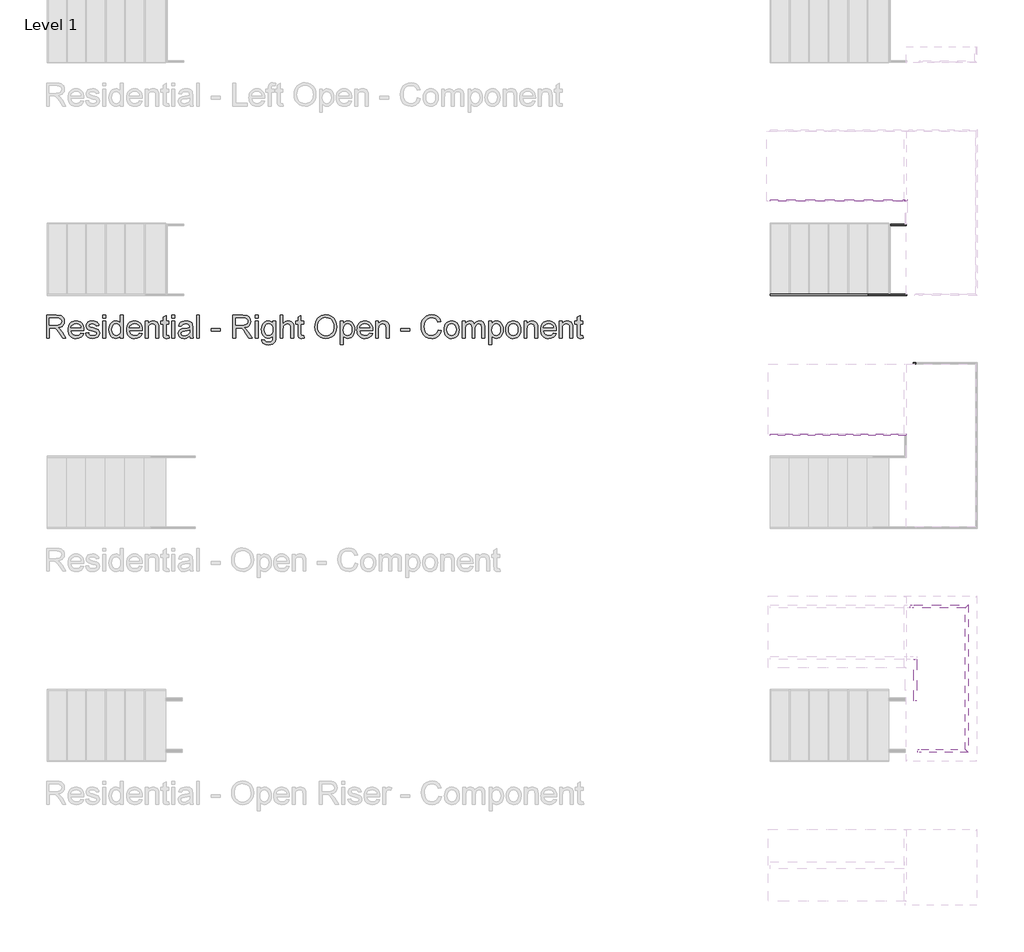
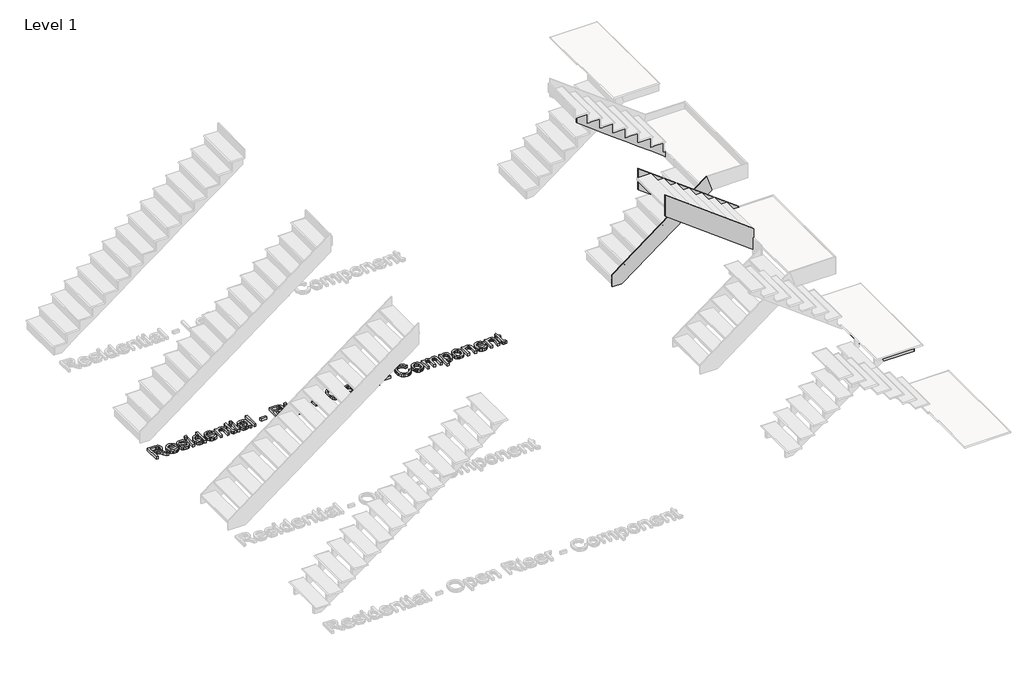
# One storey, part 7 of 15: 9 members, 1 proxy.
"""IFC4 building model written with IfcOpenShell, lengths in millimetres."""

from ifc_helpers import new_model, si_unit, frame, origin, origin_with_axes, place, context, project, spatial, polyline, outline, extrude, faceted_brep, element, save

model = new_model("IFC4")

# Units and contexts
model_context = context("Model", 3, world=origin())
ifc_project = project(units=[si_unit("LENGTHUNIT", "METRE", prefix="MILLI")], contexts=[model_context])

# Site, building, storey
site = spatial("IfcSite", under=ifc_project)
building = spatial("IfcBuilding", under=site)
storey = spatial("IfcBuildingStorey", under=building, Name="Level 1", Elevation=0.0)

# Proxy
placement = place(None, origin())
element("IfcBuildingElementProxy", 1, Name="12\" Arial", ObjectType="12\" Arial", at=placement, inside=storey, context=model_context, shape_type="SweptSolid", body=[
    extrude(outline(polyline([(-27238.310174, -2715.1232123), (-27238.310174, -2415.012443), (-27108.9899817, -2415.012443), (-27074.2328904, -2417.0365055), (-27048.9458471, -2423.108693), (-27030.4636837, -2434.3188854), (-27016.1212317, -2451.7569623), (-27006.9167846, -2473.380544), (-27003.8486356, -2497.1472507), (-27008.9316885, -2526.7113854), (-27024.1808471, -2551.219943), (-27035.7321993, -2561.2074551), (-27050.0540442, -2569.1892219), (-27087.0092125, -2579.13552), (-27065.6878664, -2595.1814815), (-27035.2811356, -2633.7943661), (-26985.238251, -2715.1232123), (-27028.8334433, -2715.1232123), (-27067.8859433, -2652.9176354), (-27096.0945971, -2611.7403277), (-27115.913924, -2592.2873469), (-27133.7549817, -2585.1435969), (-27155.5159433, -2583.8247507), (-27200.7963279, -2583.8247507), (-27200.7963279, -2715.1232123), (-27238.310174, -2715.1232123)]), holes=[polyline([(-27200.7963279, -2546.3109046), (-27116.8297894, -2546.3109046), (-27092.7150539, -2544.9828998), (-27074.003924, -2540.9988854), (-27059.9179144, -2534.0932604), (-27049.6785394, -2524.0004238), (-27043.4414962, -2511.7919382), (-27041.3624817, -2498.5393661), (-27045.3281789, -2480.2403757), (-27057.2252702, -2465.494943), (-27077.6948615, -2455.7684527), (-27107.3780587, -2452.5262892), (-27200.7963279, -2452.5262892), (-27200.7963279, -2546.3109046)])]), origin_with_axes(), (0.0, 0.0, 1.0), 50.8),
    extrude(outline(polyline([(-26788.5836356, -2649.4739815), (-26751.8024817, -2654.1632123), (-26765.0550539, -2681.8772988), (-26786.2023856, -2702.5941738), (-26814.7682269, -2715.5078757), (-26850.2763279, -2719.812443), (-26873.5530466, -2717.955526), (-26894.2928183, -2712.3847748), (-26912.4956428, -2703.1001894), (-26928.1615202, -2690.10177), (-26940.7592486, -2673.7512832), (-26949.757626, -2654.4104959), (-26955.1566524, -2632.0794082), (-26956.9563279, -2606.75802), (-26955.1383351, -2580.5780079), (-26949.6843567, -2557.5027796), (-26940.5943928, -2537.5323349), (-26927.8684433, -2520.6666738), (-26912.2437798, -2507.2675632), (-26894.457674, -2497.69677), (-26874.510126, -2491.954294), (-26852.4011356, -2490.0401354), (-26831.0042305, -2491.9497147), (-26811.6542846, -2497.6784527), (-26794.3512978, -2507.2263493), (-26779.0952702, -2520.5934046), (-26766.6417906, -2537.422431), (-26757.7464481, -2557.3562411), (-26752.4092426, -2580.3948349), (-26750.630174, -2606.5382123), (-26750.8499817, -2616.6493661), (-26919.4424817, -2616.6493661), (-26912.9489962, -2644.7297988), (-26897.8646933, -2665.3734046), (-26876.0945731, -2678.0672988), (-26849.5436356, -2682.2985969), (-26829.5777702, -2680.338645), (-26812.7624817, -2674.4587892), (-26799.0977702, -2664.2926834), (-26788.5836356, -2649.4739815)]), holes=[polyline([(-26919.4424817, -2579.13552), (-26788.1440202, -2579.13552), (-26793.2179144, -2559.316193), (-26803.1642125, -2545.1385969), (-26825.0350779, -2531.9501354), (-26852.547674, -2527.5539815), (-26877.8347173, -2531.0617459), (-26898.743924, -2541.5850392), (-26913.2787077, -2557.9881882), (-26919.4424817, -2579.13552)])]), origin_with_axes(), (0.0, 0.0, 1.0), 50.8),
    extrude(outline(polyline([(-26727.1840202, -2649.4739815), (-26689.670174, -2644.7847507), (-26683.7536837, -2660.8307123), (-26672.3053664, -2672.6270584), (-26655.2519529, -2679.8807123), (-26632.520174, -2682.2985969), (-26610.0631548, -2680.0822027), (-26594.2736356, -2673.43302), (-26584.9318087, -2663.7981161), (-26581.8178664, -2652.6245584), (-26584.950126, -2643.0629238), (-26594.3469048, -2635.7726354), (-26632.9597894, -2625.0753277), (-26689.4503664, -2606.7213854), (-26703.747025, -2597.4986209), (-26714.1054625, -2585.2901354), (-26720.3974577, -2570.8744142), (-26722.4947894, -2555.029943), (-26720.8095971, -2540.4951594), (-26715.7540202, -2527.0777315), (-26707.7859914, -2515.3088613), (-26697.3634433, -2505.7197507), (-26673.5143087, -2494.6194623), (-26641.2392125, -2490.0401354), (-26616.8222414, -2491.8810248), (-26595.5924817, -2497.403693), (-26578.520751, -2506.0677796), (-26566.5778664, -2517.3329238), (-26558.6647894, -2532.0325632), (-26553.6824817, -2551.0001354), (-26591.1963279, -2555.6893661), (-26595.9313519, -2543.8838613), (-26605.3006548, -2534.9908084), (-26619.3958231, -2529.4131882), (-26638.3084433, -2527.5539815), (-26659.8495971, -2529.3307604), (-26674.2103664, -2534.6610969), (-26682.288299, -2542.3543661), (-26684.9809433, -2551.219943), (-26680.5115202, -2562.1370584), (-26666.5170971, -2570.4164815), (-26634.2053664, -2578.4028277), (-26579.1435394, -2596.0607123), (-26564.5995971, -2604.5049911), (-26553.5725779, -2616.0632123), (-26546.6211596, -2630.7720104), (-26544.3040202, -2648.66802), (-26547.0241404, -2667.1685007), (-26555.184501, -2684.569943), (-26568.4737077, -2699.5077075), (-26586.5803664, -2710.6171546), (-26608.4512317, -2717.5136209), (-26633.0330587, -2719.812443), (-26670.858299, -2715.3796546), (-26698.4624817, -2702.0812892), (-26716.8896933, -2680.0638854), (-26727.1840202, -2649.4739815)])), origin_with_axes(), (0.0, 0.0, 1.0), 50.8),
    extrude(outline(polyline([(-26502.1009433, -2715.1232123), (-26502.1009433, -2494.7293661), (-26464.5870971, -2494.7293661), (-26464.5870971, -2715.1232123), (-26502.1009433, -2715.1232123)])), origin_with_axes(), (0.0, 0.0, 1.0), 50.8),
    extrude(outline(polyline([(-26502.1009433, -2452.5262892), (-26502.1009433, -2415.012443), (-26464.5870971, -2415.012443), (-26464.5870971, -2452.5262892), (-26502.1009433, -2452.5262892)])), origin_with_axes(), (0.0, 0.0, 1.0), 50.8),
    extrude(outline(polyline([(-26272.3286356, -2715.1232123), (-26272.3286356, -2679.7341738), (-26283.5525659, -2697.2684166), (-26297.1485875, -2709.7928757), (-26313.1167005, -2717.3075512), (-26331.4569048, -2719.812443), (-26355.7090202, -2716.1856161), (-26377.9095971, -2705.3051354), (-26396.7031548, -2687.931169), (-26410.7342125, -2664.8238854), (-26419.4715683, -2636.9174671), (-26422.3840202, -2605.1460969), (-26419.7005346, -2573.7685488), (-26411.6500779, -2545.4316738), (-26398.2418087, -2521.747395), (-26379.4848856, -2504.3276354), (-26356.7989, -2493.6120104), (-26331.6034433, -2490.0401354), (-26313.249501, -2492.5953998), (-26297.0203664, -2500.261193), (-26283.2640683, -2512.0117459), (-26272.3286356, -2526.8212892), (-26272.3286356, -2415.012443), (-26234.8147894, -2415.012443), (-26234.8147894, -2715.1232123), (-26272.3286356, -2715.1232123)]), holes=[polyline([(-26384.870174, -2604.9995584), (-26380.638876, -2638.9323709), (-26367.9449817, -2663.0654238), (-26349.4994529, -2677.4903036), (-26328.013251, -2682.2985969), (-26306.5362077, -2677.7101113), (-26288.5577702, -2663.9446546), (-26276.3859192, -2640.7457844), (-26272.3286356, -2607.8570584), (-26276.4591885, -2571.9001834), (-26288.8508471, -2546.9703277), (-26307.2872173, -2532.408068), (-26329.5519048, -2527.5539815), (-26351.2579144, -2532.2157363), (-26369.0440202, -2546.2010007), (-26380.9136356, -2570.2241498), (-26384.870174, -2604.9995584)])]), origin_with_axes(), (0.0, 0.0, 1.0), 50.8),
    extrude(outline(polyline([(-26024.2390202, -2649.4739815), (-25987.4578664, -2654.1632123), (-26000.7104385, -2681.8772988), (-26021.8577702, -2702.5941738), (-26050.4236115, -2715.5078757), (-26085.9317125, -2719.812443), (-26109.2084313, -2717.955526), (-26129.9482029, -2712.3847748), (-26148.1510274, -2703.1001894), (-26163.8169048, -2690.10177), (-26176.4146332, -2673.7512832), (-26185.4130106, -2654.4104959), (-26190.812037, -2632.0794082), (-26192.6117125, -2606.75802), (-26190.7937197, -2580.5780079), (-26185.3397414, -2557.5027796), (-26176.2497774, -2537.5323349), (-26163.5238279, -2520.6666738), (-26147.8991644, -2507.2675632), (-26130.1130587, -2497.69677), (-26110.1655106, -2491.954294), (-26088.0565202, -2490.0401354), (-26066.6596152, -2491.9497147), (-26047.3096692, -2497.6784527), (-26030.0066825, -2507.2263493), (-26014.7506548, -2520.5934046), (-26002.2971753, -2537.422431), (-25993.4018327, -2557.3562411), (-25988.0646272, -2580.3948349), (-25986.2855587, -2606.5382123), (-25986.5053664, -2616.6493661), (-26155.0978664, -2616.6493661), (-26148.6043808, -2644.7297988), (-26133.5200779, -2665.3734046), (-26111.7499577, -2678.0672988), (-26085.1990202, -2682.2985969), (-26065.2331548, -2680.338645), (-26048.4178664, -2674.4587892), (-26034.7531548, -2664.2926834), (-26024.2390202, -2649.4739815)]), holes=[polyline([(-26155.0978664, -2579.13552), (-26023.7994048, -2579.13552), (-26028.873299, -2559.316193), (-26038.8195971, -2545.1385969), (-26060.6904625, -2531.9501354), (-26088.2030587, -2527.5539815), (-26113.4901019, -2531.0617459), (-26134.3993087, -2541.5850392), (-26148.9340923, -2557.9881882), (-26155.0978664, -2579.13552)])]), origin_with_axes(), (0.0, 0.0, 1.0), 50.8),
    extrude(outline(polyline([(-25948.7717125, -2715.1232123), (-25948.7717125, -2494.7293661), (-25911.2578664, -2494.7293661), (-25911.2578664, -2525.502443), (-25898.2251019, -2509.9876834), (-25882.5729625, -2498.9057123), (-25864.3014481, -2492.2565296), (-25843.4105587, -2490.0401354), (-25824.9192365, -2491.8260729), (-25807.9848856, -2497.1838854), (-25793.8622414, -2505.4449911), (-25783.8060394, -2515.9408084), (-25772.5592125, -2543.5266738), (-25770.5809433, -2579.794943), (-25770.5809433, -2715.1232123), (-25808.0947894, -2715.1232123), (-25808.0947894, -2584.85052), (-25812.417674, -2551.6595584), (-25818.398275, -2541.7773709), (-25827.6943087, -2534.1115777), (-25839.6097173, -2529.1933805), (-25853.4484433, -2527.5539815), (-25875.4200539, -2531.2357604), (-25894.149501, -2542.2810969), (-25901.6344108, -2551.2977916), (-25906.980775, -2563.6207604), (-25911.2578664, -2598.18552), (-25911.2578664, -2715.1232123), (-25948.7717125, -2715.1232123)])), origin_with_axes(), (0.0, 0.0, 1.0), 50.8),
    extrude(outline(polyline([(-25639.2824817, -2683.8372507), (-25634.593251, -2716.2222507), (-25662.6553664, -2719.812443), (-25680.6612798, -2718.2554719), (-25694.0878664, -2713.5845584), (-25703.5762317, -2706.3858565), (-25709.7674817, -2697.24552), (-25713.174501, -2681.5475873), (-25714.310174, -2654.6760969), (-25714.310174, -2532.2432123), (-25742.4455587, -2532.2432123), (-25742.4455587, -2494.7293661), (-25714.310174, -2494.7293661), (-25714.310174, -2441.1695584), (-25676.7963279, -2419.11552), (-25676.7963279, -2494.7293661), (-25639.2824817, -2494.7293661), (-25639.2824817, -2532.2432123), (-25676.7963279, -2532.2432123), (-25676.7963279, -2653.5770584), (-25674.8180587, -2672.9201354), (-25668.407001, -2679.7708084), (-25655.6215202, -2682.2985969), (-25639.2824817, -2683.8372507)])), origin_with_axes(), (0.0, 0.0, 1.0), 50.8),
    extrude(outline(polyline([(-25601.7686356, -2715.1232123), (-25601.7686356, -2494.7293661), (-25564.2547894, -2494.7293661), (-25564.2547894, -2715.1232123), (-25601.7686356, -2715.1232123)])), origin_with_axes(), (0.0, 0.0, 1.0), 50.8),
    extrude(outline(polyline([(-25601.7686356, -2452.5262892), (-25601.7686356, -2415.012443), (-25564.2547894, -2415.012443), (-25564.2547894, -2452.5262892), (-25601.7686356, -2452.5262892)])), origin_with_axes(), (0.0, 0.0, 1.0), 50.8),
    extrude(outline(polyline([(-25367.3070971, -2686.9878277), (-25385.2305827, -2702.3560488), (-25403.6852702, -2712.4122507), (-25423.0924577, -2717.962395), (-25443.8734433, -2719.812443), (-25475.2235154, -2715.3613373), (-25498.3491164, -2702.00802), (-25512.6091404, -2681.7307604), (-25517.3624817, -2656.5078277), (-25515.5673856, -2640.9564334), (-25510.1820971, -2626.8337892), (-25501.8751981, -2614.7443661), (-25491.3152702, -2605.2926354), (-25465.048251, -2592.9834046), (-25432.5899817, -2587.3416738), (-25394.2335394, -2581.4068661), (-25367.5269048, -2574.4462892), (-25367.3070971, -2566.0935969), (-25369.8898375, -2549.3515777), (-25377.6380587, -2538.3978277), (-25394.9662317, -2530.264943), (-25419.1084433, -2527.5539815), (-25441.4555587, -2529.3582363), (-25457.0619048, -2534.7710007), (-25467.7042606, -2544.7814094), (-25475.1594048, -2560.3785969), (-25512.673251, -2555.6893661), (-25506.1614481, -2535.1739815), (-25496.4441164, -2519.0547507), (-25482.614549, -2506.7272027), (-25463.7660394, -2497.5868661), (-25440.7137077, -2491.926818), (-25414.272674, -2490.0401354), (-25388.9123615, -2491.7070104), (-25368.8091164, -2496.7076354), (-25353.6515442, -2504.2268902), (-25343.128251, -2513.4496546), (-25336.1493567, -2524.8521786), (-25331.6249817, -2538.9107123), (-25329.793251, -2571.7353277), (-25329.793251, -2618.4078277), (-25327.888251, -2683.5808084), (-25320.4147894, -2715.1232123), (-25357.9286356, -2715.1232123), (-25367.3070971, -2686.9878277)]), holes=[polyline([(-25367.3070971, -2611.9601354), (-25427.8274817, -2623.4634046), (-25460.1025779, -2629.5447507), (-25474.7197894, -2639.4360969), (-25479.8486356, -2653.8701354), (-25477.0552462, -2665.0253757), (-25468.6750779, -2674.1657123), (-25454.8913039, -2680.2653757), (-25435.8870971, -2682.2985969), (-25415.7380587, -2680.0547267), (-25397.9336356, -2673.3231161), (-25383.4995971, -2663.404294), (-25373.4617125, -2651.5987892), (-25369.0106067, -2639.4360969), (-25367.5269048, -2622.5841738), (-25367.3070971, -2611.9601354)])]), origin_with_axes(), (0.0, 0.0, 1.0), 50.8),
    extrude(outline(polyline([(-25278.2117125, -2715.1232123), (-25278.2117125, -2415.012443), (-25240.6978664, -2415.012443), (-25240.6978664, -2715.1232123), (-25278.2117125, -2715.1232123)])), origin_with_axes(), (0.0, 0.0, 1.0), 50.8),
    extrude(outline(polyline([(-25085.953251, -2626.0278277), (-25085.953251, -2588.5139815), (-24968.7224817, -2588.5139815), (-24968.7224817, -2626.0278277), (-25085.953251, -2626.0278277)])), origin_with_axes(), (0.0, 0.0, 1.0), 50.8),
    extrude(outline(polyline([(-24804.5994048, -2715.1232123), (-24804.5994048, -2415.012443), (-24675.2792125, -2415.012443), (-24640.5221212, -2417.0365055), (-24615.2350779, -2423.108693), (-24596.7529144, -2434.3188854), (-24582.4104625, -2451.7569623), (-24573.2060154, -2473.380544), (-24570.1378664, -2497.1472507), (-24575.2209192, -2526.7113854), (-24590.4700779, -2551.219943), (-24602.0214301, -2561.2074551), (-24616.343275, -2569.1892219), (-24653.2984433, -2579.13552), (-24631.9770971, -2595.1814815), (-24601.5703664, -2633.7943661), (-24551.5274817, -2715.1232123), (-24595.122674, -2715.1232123), (-24634.175174, -2652.9176354), (-24662.3838279, -2611.7403277), (-24682.2031548, -2592.2873469), (-24700.0442125, -2585.1435969), (-24721.805174, -2583.8247507), (-24767.0855587, -2583.8247507), (-24767.0855587, -2715.1232123), (-24804.5994048, -2715.1232123)]), holes=[polyline([(-24767.0855587, -2546.3109046), (-24683.1190202, -2546.3109046), (-24659.0042846, -2544.9828998), (-24640.2931548, -2540.9988854), (-24626.2071452, -2534.0932604), (-24615.9677702, -2524.0004238), (-24609.7307269, -2511.7919382), (-24607.6517125, -2498.5393661), (-24611.6174096, -2480.2403757), (-24623.514501, -2465.494943), (-24643.9840923, -2455.7684527), (-24673.6672894, -2452.5262892), (-24767.0855587, -2452.5262892), (-24767.0855587, -2546.3109046)])]), origin_with_axes(), (0.0, 0.0, 1.0), 50.8),
    extrude(outline(polyline([(-24509.1778664, -2715.1232123), (-24509.1778664, -2494.7293661), (-24471.6640202, -2494.7293661), (-24471.6640202, -2715.1232123), (-24509.1778664, -2715.1232123)])), origin_with_axes(), (0.0, 0.0, 1.0), 50.8),
    extrude(outline(polyline([(-24509.1778664, -2452.5262892), (-24509.1778664, -2415.012443), (-24471.6640202, -2415.012443), (-24471.6640202, -2452.5262892), (-24509.1778664, -2452.5262892)])), origin_with_axes(), (0.0, 0.0, 1.0), 50.8),
    extrude(outline(polyline([(-24424.7717125, -2733.8801354), (-24387.2578664, -2738.5693661), (-24383.1181548, -2750.292443), (-24375.095174, -2758.3520584), (-24359.3239721, -2764.6165777), (-24338.6803664, -2766.7047507), (-24316.6629625, -2764.341818), (-24300.2872894, -2757.25302), (-24288.9305587, -2745.8962892), (-24281.9699817, -2730.7295584), (-24279.4055587, -2686.9878277), (-24291.8888039, -2699.2970584), (-24305.8191164, -2708.0893661), (-24321.1964962, -2713.3647507), (-24338.0209433, -2715.1232123), (-24358.5889902, -2713.0762531), (-24376.6979385, -2706.9353757), (-24392.3477882, -2696.7005801), (-24405.5385394, -2682.3718661), (-24416.0045911, -2665.1810729), (-24423.4803423, -2646.3600392), (-24427.965793, -2625.9087652), (-24429.4609433, -2603.8272507), (-24426.7774577, -2573.5395825), (-24418.727001, -2545.6881161), (-24405.5934914, -2522.0862652), (-24387.6608471, -2504.547443), (-24365.5426981, -2493.6669623), (-24339.852674, -2490.0401354), (-24322.3092726, -2492.0916738), (-24306.3869529, -2498.2462892), (-24292.0857149, -2508.5039815), (-24279.4055587, -2522.8647507), (-24279.4055587, -2494.7293661), (-24241.8917125, -2494.7293661), (-24241.8917125, -2685.0095584), (-24244.4561356, -2728.9436209), (-24252.1494048, -2757.8758084), (-24265.4019769, -2777.0631882), (-24284.6443087, -2791.7628277), (-24309.4551019, -2801.1046546), (-24339.4130587, -2804.2185969), (-24374.3166885, -2799.8316017), (-24401.8018087, -2786.6706161), (-24412.1533772, -2776.7907183), (-24419.4322173, -2764.6990055), (-24423.6383291, -2750.3954779), (-24424.7717125, -2733.8801354)]), holes=[polyline([(-24391.9470971, -2601.2628277), (-24387.9447654, -2635.6718902), (-24375.9377702, -2659.328693), (-24357.8860635, -2673.0391979), (-24335.7495971, -2677.6093661), (-24313.7779865, -2673.0666738), (-24295.6346933, -2659.4385969), (-24283.4628423, -2636.0840296), (-24279.4055587, -2602.3618661), (-24283.5819048, -2569.8394863), (-24296.1109433, -2546.4208084), (-24314.5198375, -2532.2706882), (-24336.335751, -2527.5539815), (-24357.7578423, -2532.197419), (-24375.7179625, -2546.1277315), (-24387.8898135, -2569.1983805), (-24391.9470971, -2601.2628277)])]), origin_with_axes(), (0.0, 0.0, 1.0), 50.8),
    extrude(outline(polyline([(-24185.6209433, -2715.1232123), (-24185.6209433, -2415.012443), (-24148.1070971, -2415.012443), (-24148.1070971, -2525.3559046), (-24134.3279024, -2509.9052555), (-24118.8543567, -2498.8690777), (-24101.6864601, -2492.2473709), (-24082.8242125, -2490.0401354), (-24060.1657029, -2492.4488613), (-24040.6944048, -2499.6750392), (-24025.3628183, -2511.1508325), (-24015.1234433, -2526.3084046), (-24009.3534914, -2547.1351834), (-24007.430174, -2575.6185969), (-24007.430174, -2715.1232123), (-24044.9440202, -2715.1232123), (-24044.9440202, -2579.5018661), (-24047.9297414, -2556.0190777), (-24056.8869048, -2539.9364815), (-24071.3209433, -2530.6496065), (-24090.7372894, -2527.5539815), (-24106.5909192, -2529.6421546), (-24121.4737317, -2535.9066738), (-24133.8012798, -2545.743068), (-24141.9891164, -2558.5468661), (-24146.5776019, -2575.563645), (-24148.1070971, -2598.0389815), (-24148.1070971, -2715.1232123), (-24185.6209433, -2715.1232123)])), origin_with_axes(), (0.0, 0.0, 1.0), 50.8),
    extrude(outline(polyline([(-23876.1317125, -2683.8372507), (-23871.4424817, -2716.2222507), (-23899.5045971, -2719.812443), (-23917.5105106, -2718.2554719), (-23930.9370971, -2713.5845584), (-23940.4254625, -2706.3858565), (-23946.6167125, -2697.24552), (-23950.0237317, -2681.5475873), (-23951.1594048, -2654.6760969), (-23951.1594048, -2532.2432123), (-23979.2947894, -2532.2432123), (-23979.2947894, -2494.7293661), (-23951.1594048, -2494.7293661), (-23951.1594048, -2441.1695584), (-23913.6455587, -2419.11552), (-23913.6455587, -2494.7293661), (-23876.1317125, -2494.7293661), (-23876.1317125, -2532.2432123), (-23913.6455587, -2532.2432123), (-23913.6455587, -2653.5770584), (-23911.6672894, -2672.9201354), (-23905.2562317, -2679.7708084), (-23892.470751, -2682.2985969), (-23876.1317125, -2683.8372507)])), origin_with_axes(), (0.0, 0.0, 1.0), 50.8),
    extrude(outline(polyline([(-23730.7655587, -2569.0243661), (-23728.2652462, -2533.8230801), (-23720.7643087, -2502.6607604), (-23708.2627462, -2475.537407), (-23690.7605587, -2452.45302), (-23669.306412, -2434.0212291), (-23644.9489721, -2420.8556642), (-23617.688239, -2412.9563253), (-23587.5242125, -2410.3232123), (-23548.1603183, -2415.2688854), (-23512.8628664, -2430.1059046), (-23483.555174, -2453.7901834), (-23462.1605587, -2485.2776354), (-23449.082001, -2523.0479238), (-23444.7224817, -2565.5807123), (-23449.3109673, -2608.6813373), (-23463.076424, -2646.9828277), (-23485.2586837, -2678.5252315), (-23515.0975779, -2701.3485969), (-23550.0927942, -2715.1964815), (-23587.7440202, -2719.812443), (-23627.7123856, -2714.7110729), (-23663.2113279, -2699.4069623), (-23692.445751, -2675.283068), (-23713.6205587, -2643.7223469), (-23726.4793087, -2607.4082844), (-23730.7655587, -2569.0243661)]), holes=[polyline([(-23693.2517125, -2569.3907123), (-23691.3764781, -2594.2610368), (-23685.750775, -2616.3379719), (-23676.3746031, -2635.6215176), (-23663.2479625, -2652.1116738), (-23647.2912978, -2665.3184527), (-23629.4250539, -2674.7518661), (-23609.6492305, -2680.4119142), (-23587.9638279, -2682.2985969), (-23565.9074998, -2680.3935969), (-23545.8981308, -2674.6785969), (-23527.9357209, -2665.1535969), (-23512.0202702, -2651.8185969), (-23498.9897954, -2634.9804118), (-23489.6823135, -2614.9458565), (-23484.0978243, -2591.714931), (-23482.2363279, -2565.2876354), (-23485.4235394, -2532.0783565), (-23494.985174, -2503.3751354), (-23510.6739481, -2479.9015055), (-23532.2425779, -2462.3810007), (-23558.2623135, -2451.473044), (-23587.3044048, -2447.8370584), (-23608.2365082, -2449.588651), (-23627.6574337, -2454.8434286), (-23645.5671813, -2463.6013914), (-23661.965751, -2475.8625392), (-23675.6533591, -2492.2176053), (-23685.4302221, -2513.2573229), (-23691.2963399, -2538.9816918), (-23693.2517125, -2569.3907123)])]), origin_with_axes(), (0.0, 0.0, 1.0), 50.8),
    extrude(outline(polyline([(-23397.830174, -2799.5293661), (-23397.830174, -2494.7293661), (-23360.3163279, -2494.7293661), (-23360.3163279, -2531.51052), (-23348.0803664, -2513.3672267), (-23334.3790202, -2500.4077315), (-23318.4063279, -2492.6320344), (-23299.3563279, -2490.0401354), (-23273.9868567, -2493.6669623), (-23251.8045971, -2504.547443), (-23233.7437317, -2522.0221546), (-23220.7384433, -2545.4316738), (-23212.8803183, -2573.0724911), (-23210.2609433, -2603.2410969), (-23213.2191885, -2635.3238613), (-23222.093924, -2664.0179238), (-23236.6012317, -2687.8670584), (-23256.4571933, -2705.4150392), (-23279.5827942, -2716.2130921), (-23303.8990202, -2719.812443), (-23321.1447654, -2717.4037171), (-23336.5404625, -2710.1775392), (-23349.7197654, -2699.2695825), (-23360.3163279, -2685.81552), (-23360.3163279, -2799.5293661), (-23397.830174, -2799.5293661)]), holes=[polyline([(-23360.3163279, -2606.6847507), (-23356.2590442, -2640.3153277), (-23344.0871933, -2663.8347507), (-23326.1270731, -2677.6826354), (-23304.7049817, -2682.2985969), (-23282.9348615, -2677.5177796), (-23264.5168087, -2663.1753277), (-23251.9602942, -2638.7949911), (-23247.7747894, -2603.90052), (-23251.859549, -2570.4531161), (-23264.1138279, -2546.6039815), (-23282.0464721, -2532.3164815), (-23303.1663279, -2527.5539815), (-23324.3686115, -2532.6187171), (-23342.9881548, -2547.8129238), (-23355.9842846, -2572.6603517), (-23360.3163279, -2606.6847507)])]), origin_with_axes(), (0.0, 0.0, 1.0), 50.8),
    extrude(outline(polyline([(-23013.7528664, -2649.4739815), (-22976.9717125, -2654.1632123), (-22990.2242846, -2681.8772988), (-23011.3716164, -2702.5941738), (-23039.9374577, -2715.5078757), (-23075.4455587, -2719.812443), (-23098.7222774, -2717.955526), (-23119.462049, -2712.3847748), (-23137.6648736, -2703.1001894), (-23153.330751, -2690.10177), (-23165.9284793, -2673.7512832), (-23174.9268567, -2654.4104959), (-23180.3258832, -2632.0794082), (-23182.1255587, -2606.75802), (-23180.3075659, -2580.5780079), (-23174.8535875, -2557.5027796), (-23165.7636236, -2537.5323349), (-23153.037674, -2520.6666738), (-23137.4130106, -2507.2675632), (-23119.6269048, -2497.69677), (-23099.6793567, -2491.954294), (-23077.5703664, -2490.0401354), (-23056.1734613, -2491.9497147), (-23036.8235154, -2497.6784527), (-23019.5205286, -2507.2263493), (-23004.264501, -2520.5934046), (-22991.8110214, -2537.422431), (-22982.9156789, -2557.3562411), (-22977.5784733, -2580.3948349), (-22975.7994048, -2606.5382123), (-22976.0192125, -2616.6493661), (-23144.6117125, -2616.6493661), (-23138.1182269, -2644.7297988), (-23123.033924, -2665.3734046), (-23101.2638039, -2678.0672988), (-23074.7128664, -2682.2985969), (-23054.747001, -2680.338645), (-23037.9317125, -2674.4587892), (-23024.267001, -2664.2926834), (-23013.7528664, -2649.4739815)]), holes=[polyline([(-23144.6117125, -2579.13552), (-23013.313251, -2579.13552), (-23018.3871452, -2559.316193), (-23028.3334433, -2545.1385969), (-23050.2043087, -2531.9501354), (-23077.7169048, -2527.5539815), (-23103.0039481, -2531.0617459), (-23123.9131548, -2541.5850392), (-23138.4479385, -2557.9881882), (-23144.6117125, -2579.13552)])]), origin_with_axes(), (0.0, 0.0, 1.0), 50.8),
    extrude(outline(polyline([(-22938.2855587, -2715.1232123), (-22938.2855587, -2494.7293661), (-22900.7717125, -2494.7293661), (-22900.7717125, -2525.502443), (-22887.7389481, -2509.9876834), (-22872.0868087, -2498.9057123), (-22853.8152942, -2492.2565296), (-22832.9244048, -2490.0401354), (-22814.4330827, -2491.8260729), (-22797.4987317, -2497.1838854), (-22783.3760875, -2505.4449911), (-22773.3198856, -2515.9408084), (-22762.0730587, -2543.5266738), (-22760.0947894, -2579.794943), (-22760.0947894, -2715.1232123), (-22797.6086356, -2715.1232123), (-22797.6086356, -2584.85052), (-22801.9315202, -2551.6595584), (-22807.9121212, -2541.7773709), (-22817.2081548, -2534.1115777), (-22829.1235635, -2529.1933805), (-22842.9622894, -2527.5539815), (-22864.9339, -2531.2357604), (-22883.6633471, -2542.2810969), (-22891.148257, -2551.2977916), (-22896.4946212, -2563.6207604), (-22900.7717125, -2598.18552), (-22900.7717125, -2715.1232123), (-22938.2855587, -2715.1232123)])), origin_with_axes(), (0.0, 0.0, 1.0), 50.8),
    extrude(outline(polyline([(-22610.0394048, -2626.0278277), (-22610.0394048, -2588.5139815), (-22492.8086356, -2588.5139815), (-22492.8086356, -2626.0278277), (-22610.0394048, -2626.0278277)])), origin_with_axes(), (0.0, 0.0, 1.0), 50.8),
    extrude(outline(polyline([(-22117.670174, -2608.4432123), (-22080.1563279, -2618.1147507), (-22087.5794168, -2641.4441317), (-22097.4661837, -2661.8290055), (-22109.8166284, -2679.2693721), (-22124.630751, -2693.7652315), (-22141.5742606, -2705.1608866), (-22160.3128664, -2713.3006402), (-22180.8465683, -2718.1844923), (-22203.1753664, -2719.812443), (-22246.6881308, -2714.8850873), (-22281.2437317, -2700.10302), (-22307.7305587, -2675.9791257), (-22327.037001, -2643.0262892), (-22338.8241885, -2604.2851834), (-22342.753251, -2562.7964815), (-22338.3113039, -2519.0364334), (-22324.9854625, -2481.2478277), (-22303.4717846, -2450.6304479), (-22274.4663279, -2428.3840777), (-22240.066424, -2414.8384286), (-22202.3694048, -2410.3232123), (-22161.2378904, -2416.1664334), (-22143.3441704, -2423.4704599), (-22127.2318087, -2433.6960969), (-22113.166406, -2446.5731642), (-22101.4135635, -2461.8314815), (-22084.8455587, -2499.4918661), (-22122.3594048, -2508.4307123), (-22135.3646933, -2481.0738132), (-22153.1324817, -2462.3077315), (-22175.8825779, -2451.4547267), (-22203.8347894, -2447.8370584), (-22236.0549337, -2451.8485488), (-22262.5234433, -2463.88302), (-22282.6083712, -2482.6765777), (-22295.6777702, -2506.9653277), (-22302.8489962, -2534.4229719), (-22305.2394048, -2562.7232123), (-22302.4093808, -2597.3795584), (-22293.9193087, -2627.3466738), (-22279.4486356, -2651.4797267), (-22258.6768087, -2668.6338854), (-22233.7744289, -2678.882419), (-22206.9120971, -2682.2985969), (-22175.5986596, -2677.6460007), (-22149.5056548, -2663.6882123), (-22129.8053904, -2640.57177), (-22117.670174, -2608.4432123)])), origin_with_axes(), (0.0, 0.0, 1.0), 50.8),
    extrude(outline(polyline([(-22042.6424817, -2604.9262892), (-22040.6138399, -2576.3833445), (-22034.5279144, -2551.7877796), (-22024.3847053, -2531.1395945), (-22010.1842125, -2514.4387892), (-21995.8875539, -2503.7643781), (-21980.1071933, -2496.1397988), (-21962.8431308, -2491.5650512), (-21944.0953664, -2490.0401354), (-21923.3990983, -2491.8970524), (-21904.6856789, -2497.4678036), (-21887.9551079, -2506.752389), (-21873.2073856, -2519.7508084), (-21861.1706248, -2536.0234466), (-21852.5729385, -2555.1306882), (-21847.4143267, -2577.0725332), (-21845.6947894, -2601.8489815), (-21848.7354625, -2639.7474911), (-21857.8574817, -2668.5972507), (-21872.7952462, -2690.2025152), (-21893.2831548, -2706.3675392), (-21917.6176981, -2716.4512171), (-21944.0953664, -2719.812443), (-21965.09387, -2717.962395), (-21983.9813039, -2712.4122507), (-22000.757668, -2703.1620104), (-22015.4229625, -2690.2116738), (-22027.3315022, -2673.7810488), (-22035.8376019, -2654.089943), (-22040.9412618, -2631.1383565), (-22042.6424817, -2604.9262892)]), holes=[polyline([(-22005.1286356, -2604.85302), (-22000.7874337, -2638.8041498), (-21987.7638279, -2662.9921546), (-21968.1643087, -2677.4719863), (-21944.0953664, -2682.2985969), (-21920.1363279, -2677.4445104), (-21900.5734433, -2662.8822507), (-21887.5498375, -2638.373693), (-21883.2086356, -2603.6807123), (-21887.5773135, -2570.7187171), (-21900.6833471, -2546.8604238), (-21920.2737077, -2532.3805921), (-21944.0953664, -2527.5539815), (-21968.1643087, -2532.3622748), (-21987.7638279, -2546.7871546), (-22000.7874337, -2570.9202075), (-22005.1286356, -2604.85302)])]), origin_with_axes(), (0.0, 0.0, 1.0), 50.8),
    extrude(outline(polyline([(-21803.4917125, -2715.1232123), (-21803.4917125, -2494.7293661), (-21765.9778664, -2494.7293661), (-21765.9778664, -2530.9976354), (-21754.6944048, -2514.338044), (-21740.1870971, -2501.2869623), (-21722.9505106, -2492.8518421), (-21703.4792125, -2490.0401354), (-21682.615799, -2492.906794), (-21665.8920971, -2501.50677), (-21653.3996933, -2515.2722267), (-21645.230174, -2533.6353277), (-21631.5563039, -2514.562431), (-21615.9591164, -2500.9389334), (-21598.4386115, -2492.7648349), (-21578.9947894, -2490.0401354), (-21550.7952942, -2494.573669), (-21529.9410394, -2508.17427), (-21517.0548135, -2531.2082844), (-21512.7594048, -2564.0420584), (-21512.7594048, -2715.1232123), (-21550.273251, -2715.1232123), (-21550.273251, -2580.1612892), (-21553.7535394, -2548.838693), (-21558.6442606, -2540.2020825), (-21566.3558471, -2533.41552), (-21576.2746692, -2529.0193661), (-21587.7870971, -2527.5539815), (-21608.11015, -2531.3090296), (-21624.6781548, -2542.5741738), (-21635.6960154, -2562.1187411), (-21639.3686356, -2590.7120584), (-21639.3686356, -2715.1232123), (-21676.8824817, -2715.1232123), (-21676.8824817, -2575.984943), (-21679.0530827, -2554.7735007), (-21685.5648856, -2539.6434046), (-21697.0223615, -2530.5763373), (-21714.0299817, -2527.5539815), (-21728.4823375, -2529.5688854), (-21741.7990202, -2535.6135969), (-21752.7894048, -2545.5415777), (-21760.2628664, -2559.2062892), (-21764.5491164, -2578.1647027), (-21765.9778664, -2603.9737892), (-21765.9778664, -2715.1232123), (-21803.4917125, -2715.1232123)])), origin_with_axes(), (0.0, 0.0, 1.0), 50.8),
    extrude(outline(polyline([(-21456.4886356, -2799.5293661), (-21456.4886356, -2494.7293661), (-21418.9747894, -2494.7293661), (-21418.9747894, -2531.51052), (-21406.7388279, -2513.3672267), (-21393.0374817, -2500.4077315), (-21377.0647894, -2492.6320344), (-21358.0147894, -2490.0401354), (-21332.6453183, -2493.6669623), (-21310.4630587, -2504.547443), (-21292.4021933, -2522.0221546), (-21279.3969048, -2545.4316738), (-21271.5387798, -2573.0724911), (-21268.9194048, -2603.2410969), (-21271.87765, -2635.3238613), (-21280.7523856, -2664.0179238), (-21295.2596933, -2687.8670584), (-21315.1156548, -2705.4150392), (-21338.2412558, -2716.2130921), (-21362.5574817, -2719.812443), (-21379.8032269, -2717.4037171), (-21395.198924, -2710.1775392), (-21408.3782269, -2699.2695825), (-21418.9747894, -2685.81552), (-21418.9747894, -2799.5293661), (-21456.4886356, -2799.5293661)]), holes=[polyline([(-21418.9747894, -2606.6847507), (-21414.9175058, -2640.3153277), (-21402.7456548, -2663.8347507), (-21384.7855346, -2677.6826354), (-21363.3634433, -2682.2985969), (-21341.5933231, -2677.5177796), (-21323.1752702, -2663.1753277), (-21310.6187558, -2638.7949911), (-21306.433251, -2603.90052), (-21310.5180106, -2570.4531161), (-21322.7722894, -2546.6039815), (-21340.7049337, -2532.3164815), (-21361.8247894, -2527.5539815), (-21383.0270731, -2532.6187171), (-21401.6466164, -2547.8129238), (-21414.6427462, -2572.6603517), (-21418.9747894, -2606.6847507)])]), origin_with_axes(), (0.0, 0.0, 1.0), 50.8),
    extrude(outline(polyline([(-21236.0947894, -2604.9262892), (-21234.0661476, -2576.3833445), (-21227.9802221, -2551.7877796), (-21217.837013, -2531.1395945), (-21203.6365202, -2514.4387892), (-21189.3398615, -2503.7643781), (-21173.559501, -2496.1397988), (-21156.2954385, -2491.5650512), (-21137.547674, -2490.0401354), (-21116.851406, -2491.8970524), (-21098.1379865, -2497.4678036), (-21081.4074156, -2506.752389), (-21066.6596933, -2519.7508084), (-21054.6229325, -2536.0234466), (-21046.0252462, -2555.1306882), (-21040.8666344, -2577.0725332), (-21039.1470971, -2601.8489815), (-21042.1877702, -2639.7474911), (-21051.3097894, -2668.5972507), (-21066.2475539, -2690.2025152), (-21086.7354625, -2706.3675392), (-21111.0700058, -2716.4512171), (-21137.547674, -2719.812443), (-21158.5461777, -2717.962395), (-21177.4336115, -2712.4122507), (-21194.2099757, -2703.1620104), (-21208.8752702, -2690.2116738), (-21220.7838099, -2673.7810488), (-21229.2899096, -2654.089943), (-21234.3935695, -2631.1383565), (-21236.0947894, -2604.9262892)]), holes=[polyline([(-21198.5809433, -2604.85302), (-21194.2397414, -2638.8041498), (-21181.2161356, -2662.9921546), (-21161.6166164, -2677.4719863), (-21137.547674, -2682.2985969), (-21113.5886356, -2677.4445104), (-21094.025751, -2662.8822507), (-21081.0021452, -2638.373693), (-21076.6609433, -2603.6807123), (-21081.0296212, -2570.7187171), (-21094.1356548, -2546.8604238), (-21113.7260154, -2532.3805921), (-21137.547674, -2527.5539815), (-21161.6166164, -2532.3622748), (-21181.2161356, -2546.7871546), (-21194.2397414, -2570.9202075), (-21198.5809433, -2604.85302)])]), origin_with_axes(), (0.0, 0.0, 1.0), 50.8),
    extrude(outline(polyline([(-20996.9440202, -2715.1232123), (-20996.9440202, -2494.7293661), (-20959.430174, -2494.7293661), (-20959.430174, -2525.502443), (-20946.3974096, -2509.9876834), (-20930.7452702, -2498.9057123), (-20912.4737558, -2492.2565296), (-20891.5828664, -2490.0401354), (-20873.0915442, -2491.8260729), (-20856.1571933, -2497.1838854), (-20842.034549, -2505.4449911), (-20831.9783471, -2515.9408084), (-20820.7315202, -2543.5266738), (-20818.753251, -2579.794943), (-20818.753251, -2715.1232123), (-20856.2670971, -2715.1232123), (-20856.2670971, -2584.85052), (-20860.5899817, -2551.6595584), (-20866.5705827, -2541.7773709), (-20875.8666164, -2534.1115777), (-20887.782025, -2529.1933805), (-20901.620751, -2527.5539815), (-20923.5923615, -2531.2357604), (-20942.3218087, -2542.2810969), (-20949.8067185, -2551.2977916), (-20955.1530827, -2563.6207604), (-20959.430174, -2598.18552), (-20959.430174, -2715.1232123), (-20996.9440202, -2715.1232123)])), origin_with_axes(), (0.0, 0.0, 1.0), 50.8),
    extrude(outline(polyline([(-20612.8667125, -2649.4739815), (-20576.0855587, -2654.1632123), (-20589.3381308, -2681.8772988), (-20610.4854625, -2702.5941738), (-20639.0513039, -2715.5078757), (-20674.5594048, -2719.812443), (-20697.8361236, -2717.955526), (-20718.5758952, -2712.3847748), (-20736.7787197, -2703.1001894), (-20752.4445971, -2690.10177), (-20765.0423255, -2673.7512832), (-20774.0407029, -2654.4104959), (-20779.4397293, -2632.0794082), (-20781.2394048, -2606.75802), (-20779.421412, -2580.5780079), (-20773.9674337, -2557.5027796), (-20764.8774697, -2537.5323349), (-20752.1515202, -2520.6666738), (-20736.5268567, -2507.2675632), (-20718.740751, -2497.69677), (-20698.7932029, -2491.954294), (-20676.6842125, -2490.0401354), (-20655.2873075, -2491.9497147), (-20635.9373615, -2497.6784527), (-20618.6343748, -2507.2263493), (-20603.3783471, -2520.5934046), (-20590.9248676, -2537.422431), (-20582.029525, -2557.3562411), (-20576.6923195, -2580.3948349), (-20574.913251, -2606.5382123), (-20575.1330587, -2616.6493661), (-20743.7255587, -2616.6493661), (-20737.2320731, -2644.7297988), (-20722.1477702, -2665.3734046), (-20700.37765, -2678.0672988), (-20673.8267125, -2682.2985969), (-20653.8608471, -2680.338645), (-20637.0455587, -2674.4587892), (-20623.3808471, -2664.2926834), (-20612.8667125, -2649.4739815)]), holes=[polyline([(-20743.7255587, -2579.13552), (-20612.4270971, -2579.13552), (-20617.5009914, -2559.316193), (-20627.4472894, -2545.1385969), (-20649.3181548, -2531.9501354), (-20676.830751, -2527.5539815), (-20702.1177942, -2531.0617459), (-20723.027001, -2541.5850392), (-20737.5617846, -2557.9881882), (-20743.7255587, -2579.13552)])]), origin_with_axes(), (0.0, 0.0, 1.0), 50.8),
    extrude(outline(polyline([(-20537.3994048, -2715.1232123), (-20537.3994048, -2494.7293661), (-20499.8855587, -2494.7293661), (-20499.8855587, -2525.502443), (-20486.8527942, -2509.9876834), (-20471.2006548, -2498.9057123), (-20452.9291404, -2492.2565296), (-20432.038251, -2490.0401354), (-20413.5469289, -2491.8260729), (-20396.6125779, -2497.1838854), (-20382.4899337, -2505.4449911), (-20372.4337317, -2515.9408084), (-20361.1869048, -2543.5266738), (-20359.2086356, -2579.794943), (-20359.2086356, -2715.1232123), (-20396.7224817, -2715.1232123), (-20396.7224817, -2584.85052), (-20401.0453664, -2551.6595584), (-20407.0259673, -2541.7773709), (-20416.322001, -2534.1115777), (-20428.2374096, -2529.1933805), (-20442.0761356, -2527.5539815), (-20464.0477462, -2531.2357604), (-20482.7771933, -2542.2810969), (-20490.2621031, -2551.2977916), (-20495.6084673, -2563.6207604), (-20499.8855587, -2598.18552), (-20499.8855587, -2715.1232123), (-20537.3994048, -2715.1232123)])), origin_with_axes(), (0.0, 0.0, 1.0), 50.8),
    extrude(outline(polyline([(-20227.910174, -2683.8372507), (-20223.2209433, -2716.2222507), (-20251.2830587, -2719.812443), (-20269.2889721, -2718.2554719), (-20282.7155587, -2713.5845584), (-20292.203924, -2706.3858565), (-20298.395174, -2697.24552), (-20301.8021933, -2681.5475873), (-20302.9378664, -2654.6760969), (-20302.9378664, -2532.2432123), (-20331.073251, -2532.2432123), (-20331.073251, -2494.7293661), (-20302.9378664, -2494.7293661), (-20302.9378664, -2441.1695584), (-20265.4240202, -2419.11552), (-20265.4240202, -2494.7293661), (-20227.910174, -2494.7293661), (-20227.910174, -2532.2432123), (-20265.4240202, -2532.2432123), (-20265.4240202, -2653.5770584), (-20263.445751, -2672.9201354), (-20257.0346933, -2679.7708084), (-20244.2492125, -2682.2985969), (-20227.910174, -2683.8372507)])), origin_with_axes(), (0.0, 0.0, 1.0), 50.8),
])

# Members
element("IfcMember", 2, at=placement, inside=storey, context=model_context, shape_type="Brep", body=[
    faceted_brep([(-17737.5981446, -1225.6871906, 0.0), (-17597.8981446, -1225.6871906, 0.0), (-17597.8981446, -1244.7371906, 0.0), (-17737.5981446, -1244.7371906, 0.0), (-16004.0481446, -1244.7371906, 1195.3875), (-16004.0481446, -1244.7371906, 1308.1), (-16213.5981446, -1244.7371906, 1308.1), (-16213.5981446, -1244.7371906, 1117.6), (-16467.5981446, -1244.7371906, 1117.6), (-16467.5981446, -1244.7371906, 927.1), (-16721.5981446, -1244.7371906, 927.1), (-16721.5981446, -1244.7371906, 736.6), (-16975.5981446, -1244.7371906, 736.6), (-16975.5981446, -1244.7371906, 546.1), (-17229.5981446, -1244.7371906, 546.1), (-17229.5981446, -1244.7371906, 355.6), (-17483.5981446, -1244.7371906, 355.6), (-17483.5981446, -1244.7371906, 165.1), (-17737.5981446, -1244.7371906, 165.1), (-17737.5981446, -1225.6871906, 165.1), (-17483.5981446, -1225.6871906, 165.1), (-16004.0481446, -1225.6871906, 1308.1), (-16004.0481446, -1225.6871906, 1195.3875), (-16213.5981446, -1225.6871906, 1038.225), (-16467.5981446, -1225.6871906, 847.725), (-16721.5981446, -1225.6871906, 657.225), (-16975.5981446, -1225.6871906, 466.725), (-17229.5981446, -1225.6871906, 276.225), (-17483.5981446, -1225.6871906, 85.725), (-17483.5981446, -1225.6871906, 355.6), (-17229.5981446, -1225.6871906, 355.6), (-17229.5981446, -1225.6871906, 546.1), (-16975.5981446, -1225.6871906, 546.1), (-16975.5981446, -1225.6871906, 736.6), (-16721.5981446, -1225.6871906, 736.6), (-16721.5981446, -1225.6871906, 927.1), (-16467.5981446, -1225.6871906, 927.1), (-16467.5981446, -1225.6871906, 1117.6), (-16213.5981446, -1225.6871906, 1117.6), (-16213.5981446, -1225.6871906, 1308.1)], [[[0, 1, 2, 3]], [[2, 4, 5, 6, 7, 8, 9, 10, 11, 12, 13, 14, 15, 16, 17, 18, 3]], [[19, 18, 17, 20]], [[21, 22, 23, 24, 25, 26, 27, 28, 1, 0, 19, 20, 29, 30, 31, 32, 33, 34, 35, 36, 37, 38, 39]], [[18, 19, 0, 3]], [[29, 16, 15, 30]], [[20, 17, 16, 29]], [[31, 14, 13, 32]], [[30, 15, 14, 31]], [[33, 12, 11, 34]], [[32, 13, 12, 33]], [[35, 10, 9, 36]], [[34, 11, 10, 35]], [[37, 8, 7, 38]], [[36, 9, 8, 37]], [[39, 6, 5, 21]], [[38, 7, 6, 39]], [[4, 22, 21, 5]], [[22, 4, 2, 1, 28, 27, 26, 25, 24, 23]]]),
])
element("IfcMember", 3, at=placement, inside=storey, context=model_context, shape_type="SweptSolid", body=[
    extrude(outline(polyline([(242.8875, -17782.0481446), (0.0, -17782.0481446), (0.0, -17597.8981446), (1358.9, -15786.031478), (1663.7, -15887.631478), (242.8875, -17782.0481446)])), frame((0.0, -2159.1371906, 0.0), z_axis=(0.0, 1.0, 0.0), x_axis=(0.0, 0.0, 1.0)), (0.0, 0.0, 1.0), 19.05),
])
element("IfcMember", 4, at=placement, inside=storey, context=model_context, shape_type="Brep", body=[
    faceted_brep([(-17782.0481446, -901.8371906, 2719.3875), (-17782.0481446, -920.8871906, 2719.3875), (-17782.0481446, -920.8871906, 2832.1), (-17782.0481446, -901.8371906, 2832.1), (-17572.4981446, -920.8871906, 2562.225), (-17318.4981446, -920.8871906, 2371.725), (-17064.4981446, -920.8871906, 2181.225), (-16810.4981446, -920.8871906, 1990.725), (-16556.4981446, -920.8871906, 1800.225), (-16302.4981446, -920.8871906, 1609.725), (-16048.4981446, -920.8871906, 1419.225), (-16004.0481446, -920.8871906, 1385.8875), (-15984.9981446, -920.8871906, 1371.6), (-15984.9981446, -920.8871906, 1498.6), (-16004.0481446, -920.8871906, 1498.6), (-16048.4981446, -920.8871906, 1498.6), (-16048.4981446, -920.8871906, 1689.1), (-16302.4981446, -920.8871906, 1689.1), (-16302.4981446, -920.8871906, 1879.6), (-16556.4981446, -920.8871906, 1879.6), (-16556.4981446, -920.8871906, 2070.1), (-16810.4981446, -920.8871906, 2070.1), (-16810.4981446, -920.8871906, 2260.6), (-17064.4981446, -920.8871906, 2260.6), (-17064.4981446, -920.8871906, 2451.1), (-17318.4981446, -920.8871906, 2451.1), (-17318.4981446, -920.8871906, 2641.6), (-17572.4981446, -920.8871906, 2641.6), (-17572.4981446, -920.8871906, 2832.1), (-15984.9981446, -901.8371906, 1371.6), (-17572.4981446, -901.8371906, 2832.1), (-17572.4981446, -901.8371906, 2641.6), (-17318.4981446, -901.8371906, 2641.6), (-17318.4981446, -901.8371906, 2451.1), (-17064.4981446, -901.8371906, 2451.1), (-17064.4981446, -901.8371906, 2260.6), (-16810.4981446, -901.8371906, 2260.6), (-16810.4981446, -901.8371906, 2070.1), (-16556.4981446, -901.8371906, 2070.1), (-16556.4981446, -901.8371906, 1879.6), (-16302.4981446, -901.8371906, 1879.6), (-16302.4981446, -901.8371906, 1689.1), (-16048.4981446, -901.8371906, 1689.1), (-16048.4981446, -901.8371906, 1498.6), (-15984.9981446, -901.8371906, 1498.6)], [[[0, 1, 2, 3]], [[2, 1, 4, 5, 6, 7, 8, 9, 10, 11, 12, 13, 14, 15, 16, 17, 18, 19, 20, 21, 22, 23, 24, 25, 26, 27, 28]], [[1, 0, 29, 12, 11, 10, 9, 8, 7, 6, 5, 4]], [[29, 0, 3, 30, 31, 32, 33, 34, 35, 36, 37, 38, 39, 40, 41, 42, 43, 44]], [[12, 29, 44, 13]], [[16, 42, 41, 17]], [[42, 16, 15, 43]], [[18, 40, 39, 19]], [[17, 41, 40, 18]], [[20, 38, 37, 21]], [[19, 39, 38, 20]], [[22, 36, 35, 23]], [[21, 37, 36, 22]], [[24, 34, 33, 25]], [[23, 35, 34, 24]], [[26, 32, 31, 27]], [[25, 33, 32, 26]], [[28, 30, 3, 2]], [[27, 31, 30, 28]], [[43, 15, 14, 13, 44]]]),
])
element("IfcMember", 5, at=placement, inside=storey, context=model_context, shape_type="SweptSolid", body=[
    extrude(outline(polyline([(1270.0, -16004.0481446), (1714.5, -16004.0481446), (3048.0, -17782.0481446), (2603.5, -17782.0481446), (1270.0, -16004.0481446)])), frame((0.0, -3987.9371906, 0.0), z_axis=(0.0, 1.0, 0.0), x_axis=(0.0, 0.0, 1.0)), (0.0, 0.0, 1.0), 19.05),
])
element("IfcMember", 6, at=placement, inside=storey, context=model_context, shape_type="SweptSolid", body=[
    extrude(outline(polyline([(1177.925, -15881.281478), (1533.525, -15762.7481446), (3048.0, -17782.0481446), (2603.5, -17782.0481446), (1177.925, -15881.281478)])), frame((0.0, -3054.4871906, 0.0), z_axis=(0.0, 1.0, 0.0), x_axis=(0.0, 0.0, 1.0)), (0.0, 0.0, 1.0), 19.05),
])
element("IfcMember", 7, at=placement, inside=storey, context=model_context, shape_type="SweptSolid", body=[
    extrude(outline(polyline([(-15864.3481446, -6915.2871906), (-15864.3481446, -7461.3871906), (-15902.4481446, -7461.3871906), (-15902.4481446, -6915.2871906), (-15864.3481446, -6915.2871906)])), frame((0.0, 0.0, 1358.9), z_axis=(0.0, 0.0, 1.0), x_axis=(1.0, 0.0, 0.0)), (0.0, 0.0, 1.0), 139.7),
])
element("IfcMember", 8, at=placement, inside=storey, context=model_context, shape_type="Brep", body=[
    faceted_brep([(-15229.3481446, -8096.3871906, 1358.9), (-15805.081478, -8096.3871906, 1358.9), (-15851.6481446, -8096.3871906, 1498.6), (-15229.3481446, -8096.3871906, 1498.6), (-15191.2481446, -8134.4871906, 1358.9), (-15805.081478, -8134.4871906, 1358.9), (-15191.2481446, -8134.4871906, 1498.6), (-15851.6481446, -8134.4871906, 1498.6)], [[[0, 1, 2, 3]], [[1, 0, 4, 5]], [[5, 4, 6, 7]], [[1, 5, 7, 2]], [[4, 0, 3, 6]], [[3, 2, 7, 6]]]),
])
element("IfcMember", 9, at=placement, inside=storey, context=model_context, shape_type="SweptSolid", body=[
    extrude(outline(polyline([(-15229.3481446, -8096.3871906), (-15229.3481446, -6242.1871906), (-15191.2481446, -6204.0871906), (-15191.2481446, -8134.4871906), (-15229.3481446, -8096.3871906)])), frame((0.0, 0.0, 1358.9), z_axis=(0.0, 0.0, 1.0), x_axis=(1.0, 0.0, 0.0)), (0.0, 0.0, 1.0), 139.7),
])
element("IfcMember", 10, at=placement, inside=storey, context=model_context, shape_type="Brep", body=[
    faceted_brep([(-15949.0148113, -6242.1871906, 1358.9), (-15229.3481446, -6242.1871906, 1358.9), (-15229.3481446, -6242.1871906, 1498.6), (-15902.4481446, -6242.1871906, 1498.6), (-15949.0148113, -6204.0871906, 1358.9), (-15191.2481446, -6204.0871906, 1358.9), (-15902.4481446, -6204.0871906, 1498.6), (-15191.2481446, -6204.0871906, 1498.6)], [[[0, 1, 2, 3]], [[1, 0, 4, 5]], [[5, 4, 6, 7]], [[1, 5, 7, 2]], [[4, 0, 3, 6]], [[3, 2, 7, 6]]]),
])

save(model, "model.ifc")
